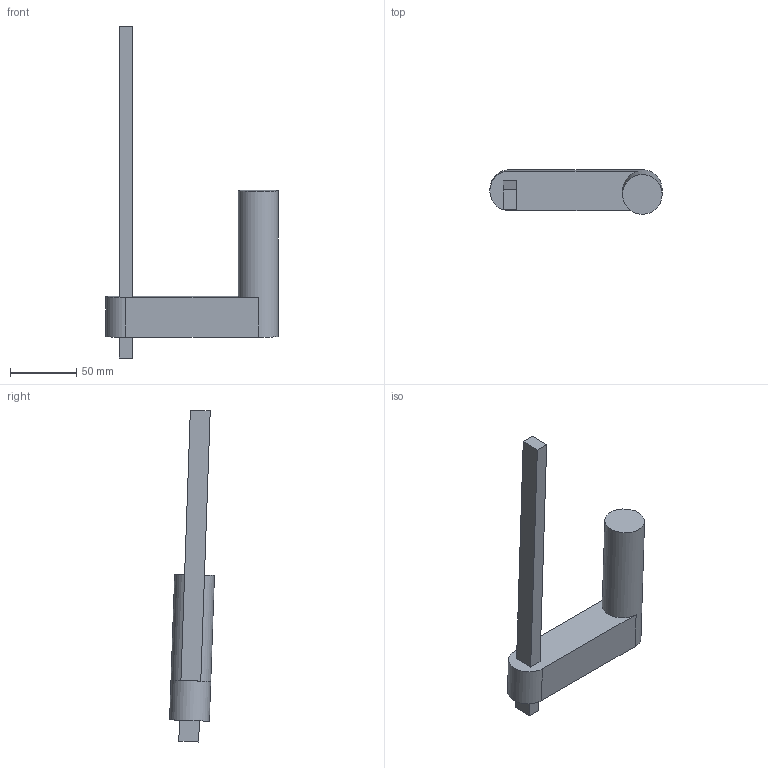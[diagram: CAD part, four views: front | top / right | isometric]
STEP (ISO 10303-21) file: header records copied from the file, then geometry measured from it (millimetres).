
FILE_DESCRIPTION(('FreeCAD Model'),'2;1');
FILE_NAME('Open CASCADE Shape Model','2025-12-02T09:47:54',(''),(''), 'Open CASCADE STEP processor 7.8','FreeCAD','Unknown');
FILE_SCHEMA(('AUTOMOTIVE_DESIGN { 1 0 10303 214 1 1 1 1 }'));
Length unit declared in the file: millimetre
Products named in the file (5): SliderJoint; Rail; Body; Sleeve; Body001
Assembly tree (4 placements, depth 3):
  SliderJoint
    Rail
      Body
    Sleeve
      Body001
Bounding box: 130 x 33.82 x 250.37 mm (x, y, z)
Volume: 200754.4 mm3; surface area: 37781 mm2
Topology: 2 solids, 2 shells, 17 faces, 39 edges, 26 vertices
Faces by surface type: plane 15, cylinder 2
Full cylindrical faces by diameter (mm): 30 x1
Entity records: 584 total; most frequent: CARTESIAN_POINT 88, DIRECTION 88, ORIENTED_EDGE 78, EDGE_CURVE 39, LINE 32, VECTOR 32, AXIS2_PLACEMENT_3D 28, VERTEX_POINT 26
